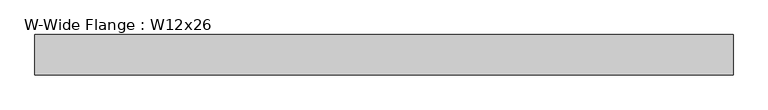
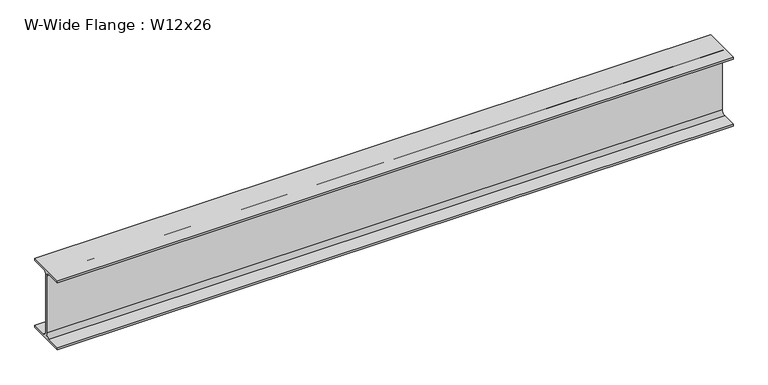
"""IFC4 building model written with IfcOpenShell, lengths in millimetres: beam geometry, W-Wide Flange : W12x26."""

from ifc_helpers import new_model, si_unit, point, frame, frame_2d, origin, place, context, project, spatial, polyline, circle_curve, trimmed, segment, composite_curve, outline, extrude, source, transform, mapped, element, save


def w_wide_flange_w12x26_cbf4b631(model_context):
    return source(origin(), model_context, "Body", "SweptSolid", [
        extrude(outline(composite_curve([segment(polyline([(82.423, -145.288), (82.423, -154.94), (-82.423, -154.94), (-82.423, -145.288), (-20.2565, -145.288)]), True, "CONTINUOUS"), segment(trimmed(circle_curve(frame_2d((-20.2565, -127.9525)), 17.3355), [point((-20.2565, -145.288))], [point((-2.921, -127.9525))], True, "CARTESIAN"), True, "CONTINUOUS"), segment(polyline([(-2.921, -127.9525), (-2.921, 127.9525)]), True, "CONTINUOUS"), segment(trimmed(circle_curve(frame_2d((-20.2565, 127.9525)), 17.3355), [point((-2.921, 127.9525))], [point((-20.2565, 145.288))], True, "CARTESIAN"), True, "CONTINUOUS"), segment(polyline([(-20.2565, 145.288), (-82.423, 145.288), (-82.423, 154.94), (82.423, 154.94), (82.423, 145.288), (20.2565, 145.288)]), True, "CONTINUOUS"), segment(trimmed(circle_curve(frame_2d((20.2565, 127.9525)), 17.3355), [point((20.2565, 145.288))], [point((2.921, 127.9525))], True, "CARTESIAN"), True, "CONTINUOUS"), segment(polyline([(2.921, 127.9525), (2.921, -127.9525)]), True, "CONTINUOUS"), segment(trimmed(circle_curve(frame_2d((20.2565, -127.9525)), 17.3355), [point((2.921, -127.9525))], [point((20.2565, -145.288))], True, "CARTESIAN"), True, "CONTINUOUS"), segment(polyline([(20.2565, -145.288), (82.423, -145.288)]), True, "CONTINUOUS")], self_intersect=False)), frame((-1386.713, 0.0, 0.0), z_axis=(1.0, 0.0, 0.0), x_axis=(0.0, 1.0, 0.0)), (0.0, 0.0, 1.0), 2859.913),
    ])


if __name__ == "__main__":
    model = new_model("IFC4")
    model_context = context("Model", 3, world=origin())
    ifc_project = project(units=[si_unit("LENGTHUNIT", "METRE", prefix="MILLI")], contexts=[model_context])
    site = spatial("IfcSite", under=ifc_project)
    building = spatial("IfcBuilding", under=site)
    placement = place(None, origin())
    w_wide_flange_w12x26_shape = w_wide_flange_w12x26_cbf4b631(model_context)
    element("IfcBeam", 1, ObjectType="W-Wide Flange : W12x26", at=placement, inside=building, context=model_context, shape_type="MappedRepresentation", body=[
        mapped(w_wide_flange_w12x26_shape, transform((0.0, 0.0, 0.0), x_axis=(1.0, 0.0, 0.0), y_axis=(0.0, 1.0, 0.0), z_axis=(0.0, 0.0, 1.0))),
    ])
    save(model, "model.ifc")
